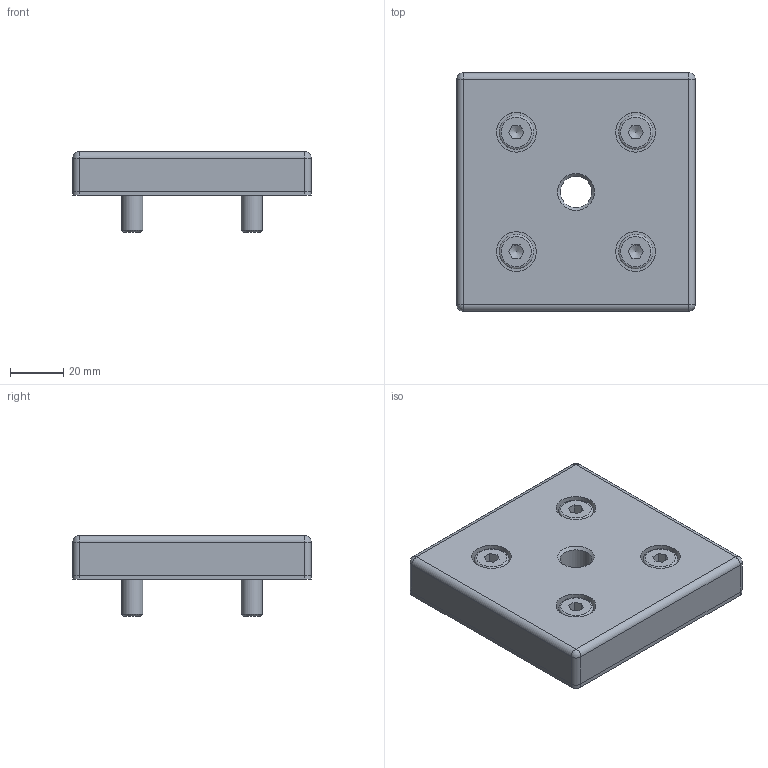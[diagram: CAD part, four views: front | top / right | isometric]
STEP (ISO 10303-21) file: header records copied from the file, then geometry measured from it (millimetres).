
FILE_DESCRIPTION((''),'2;1');
FILE_NAME('C:\Documents and Settings\Administrator\My Documents\Andys Backup Data\ANDY''S INVENTOR\INVENTOR LIBRARIES\MINITEC INVENTOR LIBRARIES\PNEUMATIC CONNECTIONS\A PACKED FILES\STEP FILES\24.1106_2 PNEUMATIC CONNECTION PLATE 90 G1-4.stp','2010-07-06T11:10:42',('Administrator'),(''),'Autodesk Inventor 2009','Autodesk Inventor 2009','');
FILE_SCHEMA(('CONFIG_CONTROL_DESIGN'));
Length unit declared in the file: millimetre
Products named in the file (4): 24.1106_2 PNEUMATIC CONNECTION PLATE 90 G1-4; 24.1113 PNEUMATIC SEAL 90X90; 21.1204  M8 x 25
Assembly tree (6 placements, depth 2):
  24.1106_2 PNEUMATIC CONNECTION PLATE 90 G1-4
    24.1106_2 PNEUMATIC CONNECTION PLATE 90 G1-4
    24.1113 PNEUMATIC SEAL 90X90
    21.1204  M8 x 25  x4
Bounding box: 90 x 90 x 30.5 mm (x, y, z)
Volume: 131222.9 mm3; surface area: 43153.1 mm2
Topology: 6 solids, 6 shells, 103 faces, 228 edges, 141 vertices
Faces by surface type: plane 48, cylinder 30, cone 9, bspline 8, sphere 4, torus 4
Full cylindrical faces by diameter (mm): 8 x4, 9 x8, 11.906 x1, 13 x4, 25 x1
Entity records: 1793 total; most frequent: CARTESIAN_POINT 359, DIRECTION 292, ORIENTED_EDGE 226, AXIS2_PLACEMENT_3D 122, EDGE_CURVE 113, EDGE_LOOP 106, VERTEX_POINT 83, FACE_OUTER_BOUND 61
